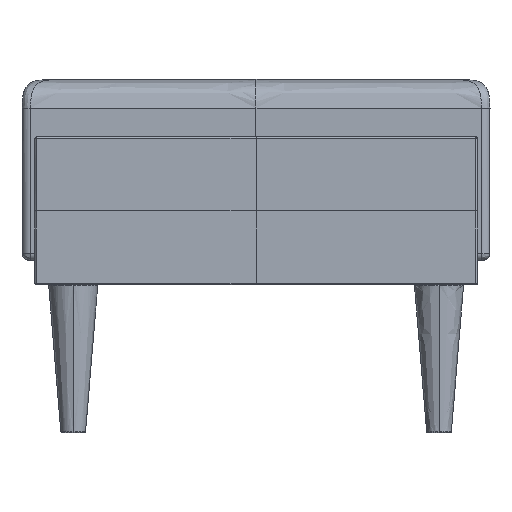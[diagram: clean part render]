
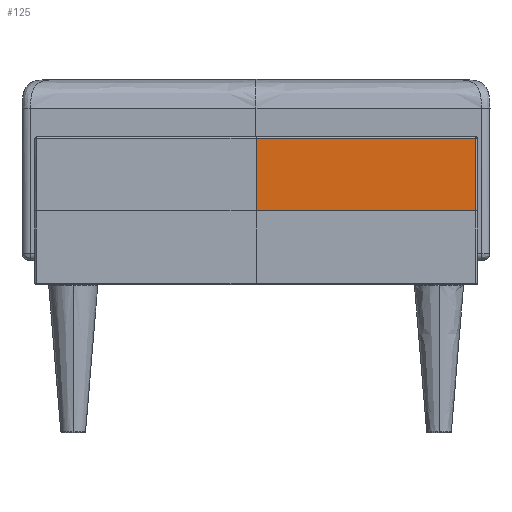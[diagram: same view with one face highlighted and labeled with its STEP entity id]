
A CAD part, left-side view. The second image highlights one B-rep face of the part: STEP entity #125.
In plain terms, the highlighted free-form (B-spline) face has degree [1, 2] with [2, 3] control points.
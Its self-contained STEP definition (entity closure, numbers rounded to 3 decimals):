
#125=ADVANCED_FACE('',(#289),#2127,.T.);
#289=FACE_OUTER_BOUND('',#457,.T.);
#457=EDGE_LOOP('',(#900,#901,#902,#903));
#900=ORIENTED_EDGE('',*,*,#1385,.T.);
#901=ORIENTED_EDGE('',*,*,#1372,.T.);
#902=ORIENTED_EDGE('',*,*,#1386,.F.);
#903=ORIENTED_EDGE('',*,*,#1381,.F.);
#1372=EDGE_CURVE('',#1961,#1966,#1745,.T.);
#1381=EDGE_CURVE('',#1971,#1972,#1752,.T.);
#1385=EDGE_CURVE('',#1971,#1961,#1756,.T.);
#1386=EDGE_CURVE('',#1972,#1966,#1757,.T.);
#1745=(
BOUNDED_CURVE()
B_SPLINE_CURVE(1,(#5813,#5814),.UNSPECIFIED.,.F.,.F.)
B_SPLINE_CURVE_WITH_KNOTS((2,2),(0.,267.778),
 .UNSPECIFIED.)
CURVE()
GEOMETRIC_REPRESENTATION_ITEM()
RATIONAL_B_SPLINE_CURVE((1.,1.))
REPRESENTATION_ITEM('')
);
#1752=(
BOUNDED_CURVE()
B_SPLINE_CURVE(2,(#5836,#5837,#5838),.UNSPECIFIED.,.F.,.F.)
B_SPLINE_CURVE_WITH_KNOTS((3,3),(-56.52,-29.742),
 .UNSPECIFIED.)
CURVE()
GEOMETRIC_REPRESENTATION_ITEM()
RATIONAL_B_SPLINE_CURVE((1.,1.,1.))
REPRESENTATION_ITEM('')
);
#1756=(
BOUNDED_CURVE()
B_SPLINE_CURVE(1,(#5845,#5846),.UNSPECIFIED.,.F.,.F.)
B_SPLINE_CURVE_WITH_KNOTS((2,2),(270.,358.5),
 .UNSPECIFIED.)
CURVE()
GEOMETRIC_REPRESENTATION_ITEM()
RATIONAL_B_SPLINE_CURVE((1.,1.))
REPRESENTATION_ITEM('')
);
#1757=(
BOUNDED_CURVE()
B_SPLINE_CURVE(1,(#5847,#5848),.UNSPECIFIED.,.F.,.F.)
B_SPLINE_CURVE_WITH_KNOTS((2,2),(270.,358.5),
 .UNSPECIFIED.)
CURVE()
GEOMETRIC_REPRESENTATION_ITEM()
RATIONAL_B_SPLINE_CURVE((1.,1.))
REPRESENTATION_ITEM('')
);
#1961=VERTEX_POINT('',#5703);
#1966=VERTEX_POINT('',#5708);
#1971=VERTEX_POINT('',#5713);
#1972=VERTEX_POINT('',#5714);
#2127=(
BOUNDED_SURFACE()
B_SPLINE_SURFACE(1,2,((#5480,#5481,#5482),(#5483,#5484,#5485)),
 .UNSPECIFIED.,.F.,.F.,.F.)
B_SPLINE_SURFACE_WITH_KNOTS((2,2),(3,3),(0.,360.),(-56.52,
-2.94),.UNSPECIFIED.)
GEOMETRIC_REPRESENTATION_ITEM()
RATIONAL_B_SPLINE_SURFACE(((1.,1.,1.),(1.,1.,1.)))
REPRESENTATION_ITEM('')
SURFACE()
);
#5480=CARTESIAN_POINT('',(-630.,-267.9,0.));
#5481=CARTESIAN_POINT('',(-630.,0.,0.));
#5482=CARTESIAN_POINT('',(-630.,267.9,0.));
#5483=CARTESIAN_POINT('',(-630.,-267.9,360.));
#5484=CARTESIAN_POINT('',(-630.,0.,360.));
#5485=CARTESIAN_POINT('',(-630.,267.9,360.));
#5703=CARTESIAN_POINT('',(-630.,-267.9,358.5));
#5708=CARTESIAN_POINT('',(-630.,-0.122,358.5));
#5713=CARTESIAN_POINT('',(-630.,-267.9,270.));
#5714=CARTESIAN_POINT('',(-630.,-0.122,270.));
#5813=CARTESIAN_POINT('',(-630.,-267.9,358.5));
#5814=CARTESIAN_POINT('',(-630.,-0.122,358.5));
#5836=CARTESIAN_POINT('',(-630.,-267.9,270.));
#5837=CARTESIAN_POINT('',(-630.,-134.011,270.));
#5838=CARTESIAN_POINT('',(-630.,-0.122,270.));
#5845=CARTESIAN_POINT('',(-630.,-267.9,270.));
#5846=CARTESIAN_POINT('',(-630.,-267.9,358.5));
#5847=CARTESIAN_POINT('',(-630.,-0.122,270.));
#5848=CARTESIAN_POINT('',(-630.,-0.122,358.5));
